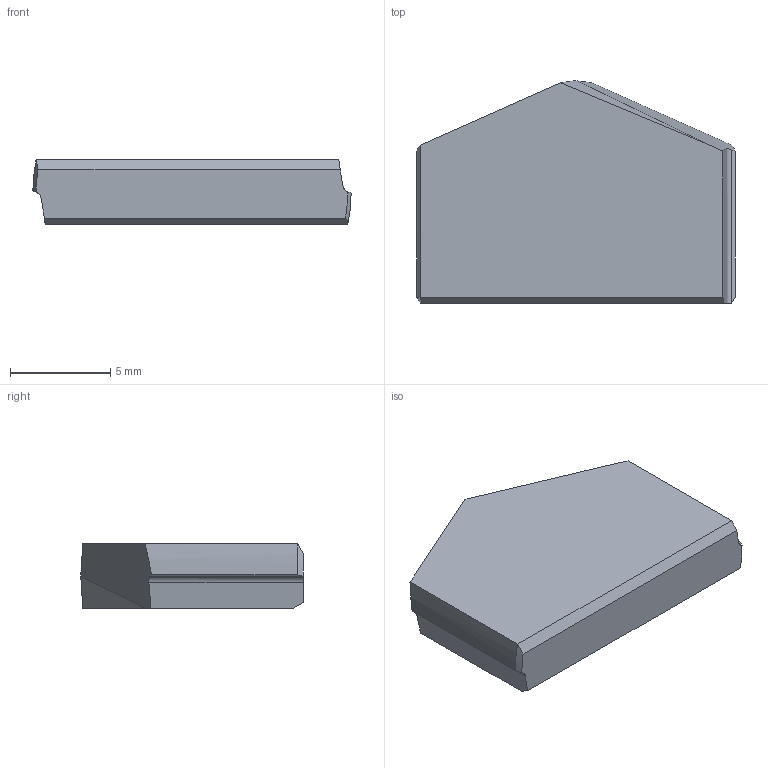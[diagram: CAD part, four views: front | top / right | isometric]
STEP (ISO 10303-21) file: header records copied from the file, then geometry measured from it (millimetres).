
FILE_DESCRIPTION (( 'STEP AP214' ), '1' );
FILE_NAME ('5-8.STEP', '2022-06-24T05:41:26', ( '' ), ( '' ), 'SwSTEP 2.0', 'SolidWorks 2018', '' );
FILE_SCHEMA (( 'AUTOMOTIVE_DESIGN' ));
Length unit declared in the file: millimetre
Products named in the file (1): 5-8
Bounding box: 15.88 x 11.1 x 3.2 mm (x, y, z)
Volume: 458.3 mm3; surface area: 432.5 mm2
Topology: 1 solids, 1 shells, 19 faces, 50 edges, 33 vertices
Faces by surface type: plane 13, cylinder 4, cone 2
Entity records: 622 total; most frequent: CARTESIAN_POINT 139, ORIENTED_EDGE 100, DIRECTION 84, EDGE_CURVE 50, VERTEX_POINT 33, VECTOR 32, LINE 32, AXIS2_PLACEMENT_3D 26
